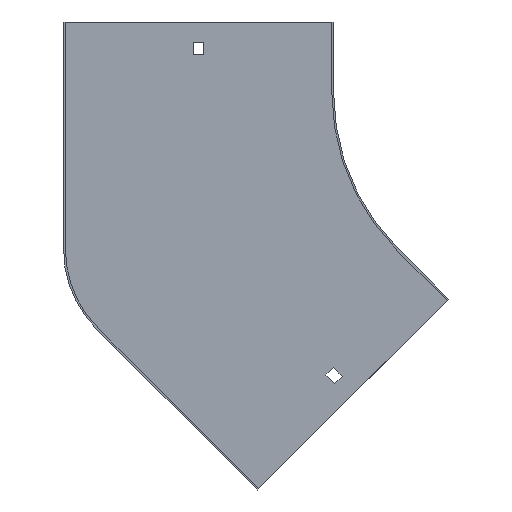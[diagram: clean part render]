
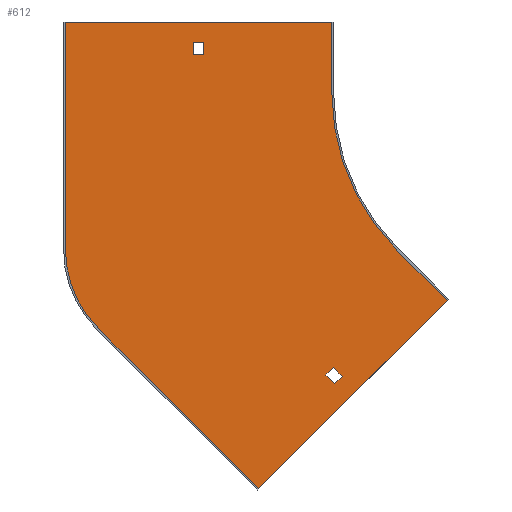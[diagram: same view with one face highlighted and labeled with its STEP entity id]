
A CAD part, front view. The second image highlights one B-rep face of the part: STEP entity #612.
In plain terms, the highlighted planar face has unit normal (0, -1, 0).
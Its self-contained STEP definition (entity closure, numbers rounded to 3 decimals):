
#27 = EDGE_CURVE ( 'NONE', #576, #336, #719, .T. ) ;
#33 = LINE ( 'NONE', #301, #577 ) ;
#39 = EDGE_LOOP ( 'NONE', ( #843, #255, #179, #682, #822, #434, #543, #506 ) ) ;
#41 = CARTESIAN_POINT ( 'NONE',  ( -203., -1., 21.5 ) ) ;
#42 = EDGE_CURVE ( 'NONE', #94, #787, #258, .T. ) ;
#45 = CIRCLE ( 'NONE', #691, 62.5 ) ;
#47 = VERTEX_POINT ( 'NONE', #397 ) ;
#48 = CARTESIAN_POINT ( 'NONE',  ( -123.39, -1., -163.695 ) ) ;
#49 = DIRECTION ( 'NONE',  ( 0.707, 0., -0.707 ) ) ;
#69 = CARTESIAN_POINT ( 'NONE',  ( -166.17, -1., -222.739 ) ) ;
#76 = LINE ( 'NONE', #528, #826 ) ;
#84 = CARTESIAN_POINT ( 'NONE',  ( -203., -1., 0. ) ) ;
#86 = FACE_BOUND ( 'NONE', #168, .T. ) ;
#87 = VECTOR ( 'NONE', #530, 1000. ) ;
#94 = VERTEX_POINT ( 'NONE', #226 ) ;
#110 = CARTESIAN_POINT ( 'NONE',  ( -197., -1., 21.5 ) ) ;
#115 = EDGE_CURVE ( 'NONE', #359, #825, #619, .T. ) ;
#117 = VERTEX_POINT ( 'NONE', #150 ) ;
#120 = DIRECTION ( 'NONE',  ( -1., 0., 0. ) ) ;
#121 = CARTESIAN_POINT ( 'NONE',  ( -143.543, -1., -143.543 ) ) ;
#126 = LINE ( 'NONE', #717, #164 ) ;
#128 = CARTESIAN_POINT ( 'NONE',  ( -275., -1., -88.02 ) ) ;
#144 = CARTESIAN_POINT ( 'NONE',  ( -275., -1., 40. ) ) ;
#147 = CIRCLE ( 'NONE', #426, 125. ) ;
#150 = CARTESIAN_POINT ( 'NONE',  ( -60.104, -1., -116.673 ) ) ;
#151 = VERTEX_POINT ( 'NONE', #737 ) ;
#158 = FACE_OUTER_BOUND ( 'NONE', #39, .T. ) ;
#159 = DIRECTION ( 'NONE',  ( 0., 0., -1. ) ) ;
#164 = VECTOR ( 'NONE', #396, 1000. ) ;
#168 = EDGE_LOOP ( 'NONE', ( #180, #732, #520, #641 ) ) ;
#176 = VECTOR ( 'NONE', #802, 1000. ) ;
#179 = ORIENTED_EDGE ( 'NONE', *, *, #308, .F. ) ;
#180 = ORIENTED_EDGE ( 'NONE', *, *, #479, .T. ) ;
#182 = LINE ( 'NONE', #587, #427 ) ;
#186 = EDGE_CURVE ( 'NONE', #726, #464, #147, .T. ) ;
#201 = VERTEX_POINT ( 'NONE', #69 ) ;
#220 = DIRECTION ( 'NONE',  ( 1., 0., 0. ) ) ;
#226 = CARTESIAN_POINT ( 'NONE',  ( -275., -1., -88.02 ) ) ;
#231 = DIRECTION ( 'NONE',  ( -0.707, 0., -0.707 ) ) ;
#255 = ORIENTED_EDGE ( 'NONE', *, *, #42, .F. ) ;
#256 = EDGE_CURVE ( 'NONE', #336, #151, #763, .T. ) ;
#258 = LINE ( 'NONE', #128, #531 ) ;
#259 = VECTOR ( 'NONE', #833, 1000. ) ;
#262 = EDGE_CURVE ( 'NONE', #653, #576, #33, .T. ) ;
#266 = CARTESIAN_POINT ( 'NONE',  ( -125., -1., 0. ) ) ;
#273 = ORIENTED_EDGE ( 'NONE', *, *, #27, .F. ) ;
#278 = CARTESIAN_POINT ( 'NONE',  ( -125., -1., 40. ) ) ;
#281 = EDGE_CURVE ( 'NONE', #201, #628, #309, .T. ) ;
#291 = LINE ( 'NONE', #739, #176 ) ;
#299 = ORIENTED_EDGE ( 'NONE', *, *, #262, .F. ) ;
#301 = CARTESIAN_POINT ( 'NONE',  ( 15.203, -1., -15.203 ) ) ;
#306 = VECTOR ( 'NONE', #355, 1000. ) ;
#308 = EDGE_CURVE ( 'NONE', #628, #94, #45, .T. ) ;
#309 = LINE ( 'NONE', #830, #621 ) ;
#315 = VECTOR ( 'NONE', #49, 1000. ) ;
#316 = CARTESIAN_POINT ( 'NONE',  ( -124.097, -1., -154.503 ) ) ;
#336 = VERTEX_POINT ( 'NONE', #48 ) ;
#355 = DIRECTION ( 'NONE',  ( 1., 0., 0. ) ) ;
#356 = EDGE_CURVE ( 'NONE', #615, #738, #853, .T. ) ;
#359 = VERTEX_POINT ( 'NONE', #41 ) ;
#362 = DIRECTION ( 'NONE',  ( 0., -1., 0. ) ) ;
#370 = EDGE_CURVE ( 'NONE', #117, #201, #182, .T. ) ;
#373 = VECTOR ( 'NONE', #674, 1000. ) ;
#378 = EDGE_LOOP ( 'NONE', ( #582, #595, #273, #299 ) ) ;
#396 = DIRECTION ( 'NONE',  ( 0.707, 0., -0.707 ) ) ;
#397 = CARTESIAN_POINT ( 'NONE',  ( -125., -1., 40. ) ) ;
#400 = LINE ( 'NONE', #417, #306 ) ;
#401 = LINE ( 'NONE', #278, #373 ) ;
#410 = DIRECTION ( 'NONE',  ( 0., -1., 0. ) ) ;
#417 = CARTESIAN_POINT ( 'NONE',  ( -276., -1., 40. ) ) ;
#422 = FACE_BOUND ( 'NONE', #378, .T. ) ;
#426 = AXIS2_PLACEMENT_3D ( 'NONE', #681, #410, #159 ) ;
#427 = VECTOR ( 'NONE', #648, 1000. ) ;
#433 = EDGE_CURVE ( 'NONE', #464, #117, #126, .T. ) ;
#434 = ORIENTED_EDGE ( 'NONE', *, *, #433, .F. ) ;
#448 = DIRECTION ( 'NONE',  ( 0., 0., 1. ) ) ;
#456 = CARTESIAN_POINT ( 'NONE',  ( 0., -1., 21.5 ) ) ;
#464 = VERTEX_POINT ( 'NONE', #483 ) ;
#479 = EDGE_CURVE ( 'NONE', #825, #615, #76, .T. ) ;
#483 = CARTESIAN_POINT ( 'NONE',  ( -88.388, -1., -88.388 ) ) ;
#498 = CARTESIAN_POINT ( 'NONE',  ( 20.153, -1., -20.153 ) ) ;
#501 = DIRECTION ( 'NONE',  ( -0.707, 0., 0.707 ) ) ;
#504 = DIRECTION ( 'NONE',  ( 0., 1., 0. ) ) ;
#505 = AXIS2_PLACEMENT_3D ( 'NONE', #687, #362, #820 ) ;
#506 = ORIENTED_EDGE ( 'NONE', *, *, #818, .F. ) ;
#510 = LINE ( 'NONE', #456, #580 ) ;
#520 = ORIENTED_EDGE ( 'NONE', *, *, #688, .T. ) ;
#526 = EDGE_CURVE ( 'NONE', #787, #47, #400, .T. ) ;
#528 = CARTESIAN_POINT ( 'NONE',  ( 0., -1., 28.5 ) ) ;
#530 = DIRECTION ( 'NONE',  ( 0., 0., 1. ) ) ;
#531 = VECTOR ( 'NONE', #448, 1000. ) ;
#543 = ORIENTED_EDGE ( 'NONE', *, *, #186, .F. ) ;
#567 = EDGE_CURVE ( 'NONE', #151, #653, #291, .T. ) ;
#576 = VERTEX_POINT ( 'NONE', #665 ) ;
#577 = VECTOR ( 'NONE', #231, 1000. ) ;
#580 = VECTOR ( 'NONE', #120, 1000. ) ;
#582 = ORIENTED_EDGE ( 'NONE', *, *, #567, .F. ) ;
#583 = DIRECTION ( 'NONE',  ( 0., 0., -1. ) ) ;
#587 = CARTESIAN_POINT ( 'NONE',  ( -59.397, -1., -115.966 ) ) ;
#595 = ORIENTED_EDGE ( 'NONE', *, *, #256, .F. ) ;
#612 = ADVANCED_FACE ( 'NONE', ( #422, #158, #86 ), #755, .T. ) ;
#615 = VERTEX_POINT ( 'NONE', #624 ) ;
#619 = LINE ( 'NONE', #84, #87 ) ;
#621 = VECTOR ( 'NONE', #501, 1000. ) ;
#624 = CARTESIAN_POINT ( 'NONE',  ( -197., -1., 28.5 ) ) ;
#628 = VERTEX_POINT ( 'NONE', #781 ) ;
#641 = ORIENTED_EDGE ( 'NONE', *, *, #115, .T. ) ;
#647 = VECTOR ( 'NONE', #583, 1000. ) ;
#648 = DIRECTION ( 'NONE',  ( -0.707, 0., -0.707 ) ) ;
#653 = VERTEX_POINT ( 'NONE', #316 ) ;
#665 = CARTESIAN_POINT ( 'NONE',  ( -128.34, -1., -158.745 ) ) ;
#674 = DIRECTION ( 'NONE',  ( 0., 0., -1. ) ) ;
#681 = CARTESIAN_POINT ( 'NONE',  ( 0., -1., 0. ) ) ;
#682 = ORIENTED_EDGE ( 'NONE', *, *, #281, .F. ) ;
#684 = CARTESIAN_POINT ( 'NONE',  ( -203., -1., 28.5 ) ) ;
#687 = CARTESIAN_POINT ( 'NONE',  ( 0., -1., 0. ) ) ;
#688 = EDGE_CURVE ( 'NONE', #738, #359, #510, .T. ) ;
#691 = AXIS2_PLACEMENT_3D ( 'NONE', #698, #504, #773 ) ;
#698 = CARTESIAN_POINT ( 'NONE',  ( -212.5, -1., -88.02 ) ) ;
#717 = CARTESIAN_POINT ( 'NONE',  ( -88.388, -1., -88.388 ) ) ;
#719 = LINE ( 'NONE', #121, #315 ) ;
#726 = VERTEX_POINT ( 'NONE', #266 ) ;
#732 = ORIENTED_EDGE ( 'NONE', *, *, #356, .T. ) ;
#737 = CARTESIAN_POINT ( 'NONE',  ( -119.147, -1., -159.453 ) ) ;
#738 = VERTEX_POINT ( 'NONE', #110 ) ;
#739 = CARTESIAN_POINT ( 'NONE',  ( -139.3, -1., -139.3 ) ) ;
#755 = PLANE ( 'NONE',  #505 ) ;
#763 = LINE ( 'NONE', #498, #259 ) ;
#773 = DIRECTION ( 'NONE',  ( 0., 0., -1. ) ) ;
#776 = CARTESIAN_POINT ( 'NONE',  ( -197., -1., 0. ) ) ;
#781 = CARTESIAN_POINT ( 'NONE',  ( -256.694, -1., -132.215 ) ) ;
#787 = VERTEX_POINT ( 'NONE', #144 ) ;
#802 = DIRECTION ( 'NONE',  ( -0.707, 0., 0.707 ) ) ;
#818 = EDGE_CURVE ( 'NONE', #47, #726, #401, .T. ) ;
#820 = DIRECTION ( 'NONE',  ( 0., 0., -1. ) ) ;
#822 = ORIENTED_EDGE ( 'NONE', *, *, #370, .F. ) ;
#825 = VERTEX_POINT ( 'NONE', #684 ) ;
#826 = VECTOR ( 'NONE', #220, 1000. ) ;
#830 = CARTESIAN_POINT ( 'NONE',  ( -166.17, -1., -222.739 ) ) ;
#833 = DIRECTION ( 'NONE',  ( 0.707, 0., 0.707 ) ) ;
#843 = ORIENTED_EDGE ( 'NONE', *, *, #526, .F. ) ;
#853 = LINE ( 'NONE', #776, #647 ) ;
